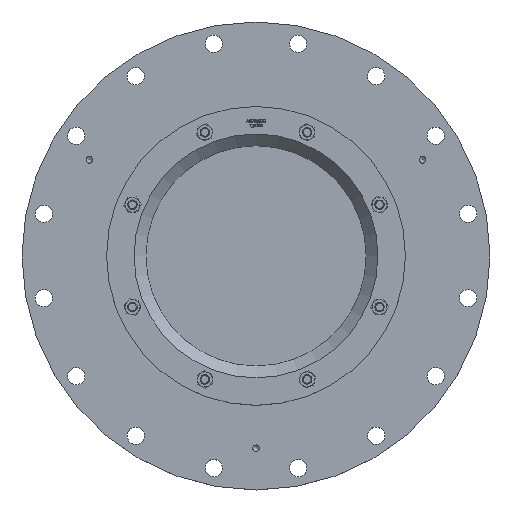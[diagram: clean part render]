
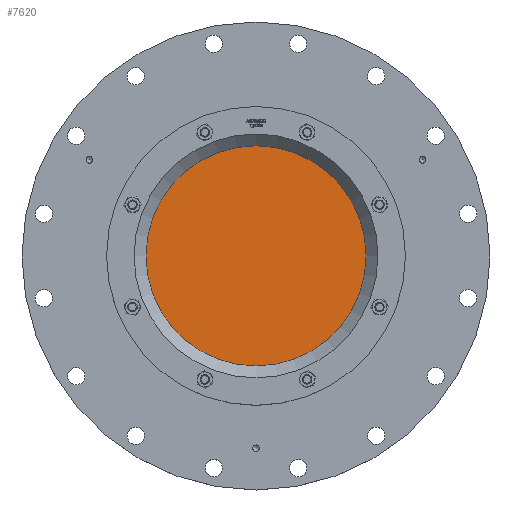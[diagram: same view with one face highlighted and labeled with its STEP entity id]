
A CAD part, top view. The second image highlights one B-rep face of the part: STEP entity #7620.
In plain terms, the highlighted planar face has unit normal (0, 0, 1).
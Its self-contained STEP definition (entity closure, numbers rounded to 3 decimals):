
#1791=FACE_OUTER_BOUND('',#2260,.T.);
#2260=EDGE_LOOP('',(#4826));
#2849=CIRCLE('',#8093,140.);
#3031=VERTEX_POINT('',#10183);
#3747=EDGE_CURVE('',#3031,#3031,#2849,.T.);
#4826=ORIENTED_EDGE('',*,*,#3747,.F.);
#6968=PLANE('',#8092);
#7620=ADVANCED_FACE('',(#1791),#6968,.F.);
#8092=AXIS2_PLACEMENT_3D('',#10182,#8639,#8640);
#8093=AXIS2_PLACEMENT_3D('',#10184,#8641,#8642);
#8639=DIRECTION('center_axis',(0.,0.,-1.));
#8640=DIRECTION('ref_axis',(-1.,0.,0.));
#8641=DIRECTION('center_axis',(0.,0.,-1.));
#8642=DIRECTION('ref_axis',(-1.,0.,0.));
#10182=CARTESIAN_POINT('Origin',(0.,0.,69.));
#10183=CARTESIAN_POINT('',(140.,0.,69.));
#10184=CARTESIAN_POINT('Origin',(0.,0.,69.));
